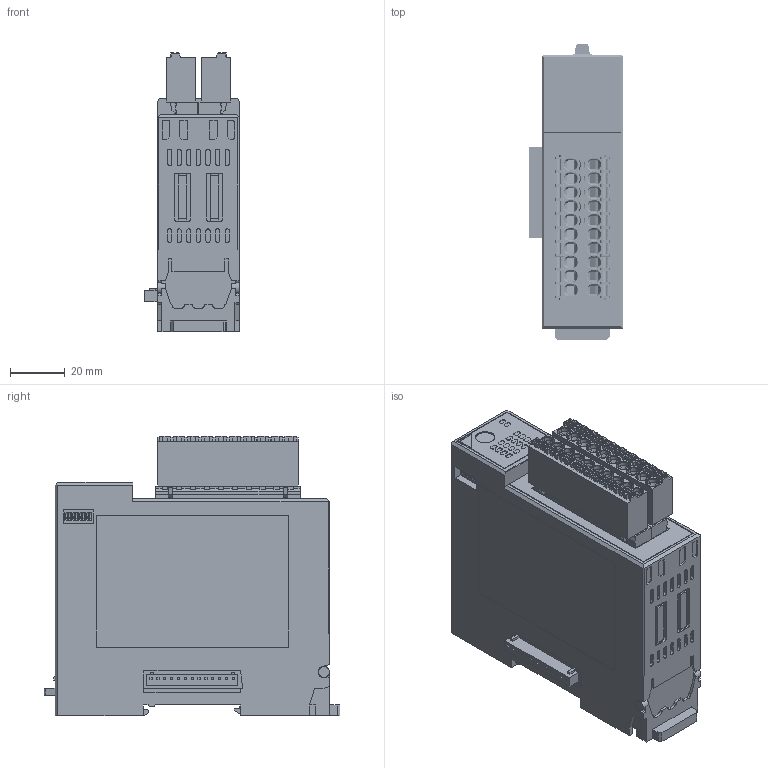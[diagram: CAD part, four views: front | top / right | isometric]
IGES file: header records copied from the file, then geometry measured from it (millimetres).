
Start section: SolidWorks IGES file using analytic representation for surfaces
Global section: file name: D:\KK\CAD_DATA\Q\Qシリーズ\QPM1\D24-019\HP_3D\QPM1-PI16□0C\AS_QPM1-PI16□0C_260616.IGS; native system: SolidWorks 2025; preprocessor: SolidWorks 2025; author: kawahara; date: 260616.161436; units: millimetre
Bounding box: 34.5 x 107.85 x 102 mm (x, y, z)
Surface area: 48954 mm2 (no closed solid volume)
Topology: 0 solids, 0 shells, 4065 faces, 30514 edges, 30474 vertices
Faces by surface type: bspline 2790, revolution 1275
